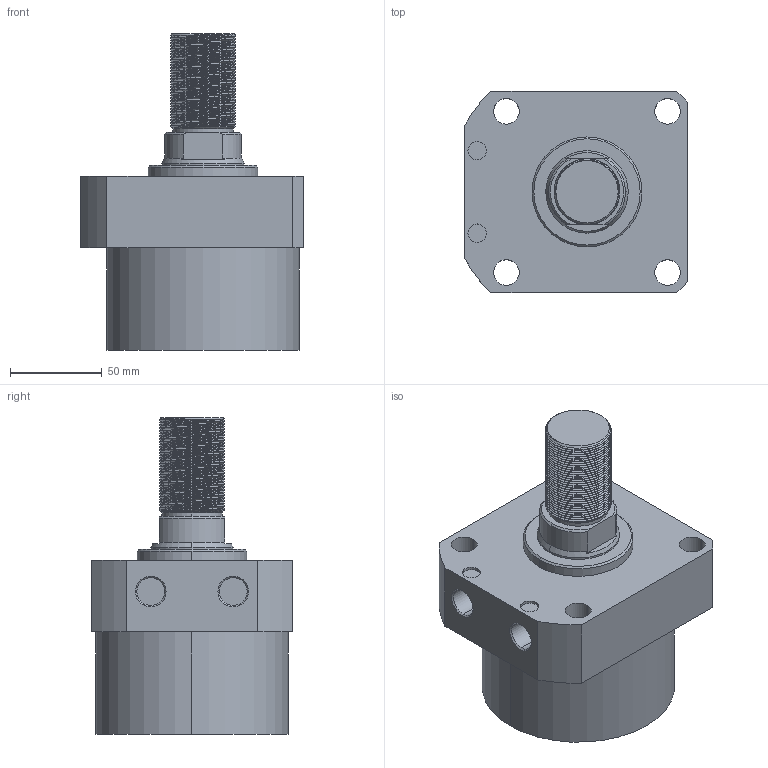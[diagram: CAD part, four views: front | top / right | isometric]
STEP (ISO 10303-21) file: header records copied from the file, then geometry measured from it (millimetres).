
FILE_DESCRIPTION (( 'STEP AP214' ), '1' );
FILE_NAME ('CLLR-105CT-035.STEP', '2020-01-09T07:31:55', ( 'Windows' ), ( 'Microsoft' ), 'SwSTEP 2.0', 'SolidWorks 2015', '' );
FILE_SCHEMA (( 'AUTOMOTIVE_DESIGN' ));
Length unit declared in the file: millimetre
Products named in the file (1): CLLR-105CT-035
Bounding box: 122 x 110 x 173 mm (x, y, z)
Volume: 1056923.9 mm3; surface area: 83362.5 mm2
Topology: 1 solids, 1 shells, 134 faces, 361 edges, 237 vertices
Faces by surface type: cylinder 96, plane 20, cone 16, bspline 2
Entity records: 7927 total; most frequent: CARTESIAN_POINT 4887, ORIENTED_EDGE 722, DIRECTION 549, EDGE_CURVE 361, VERTEX_POINT 237, AXIS2_PLACEMENT_3D 208, EDGE_LOOP 150, FACE_OUTER_BOUND 134
